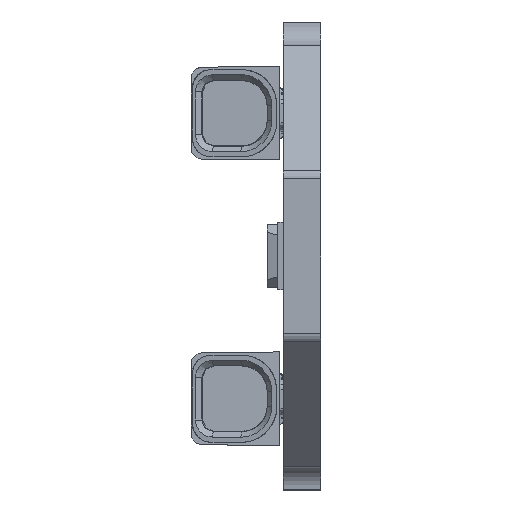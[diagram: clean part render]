
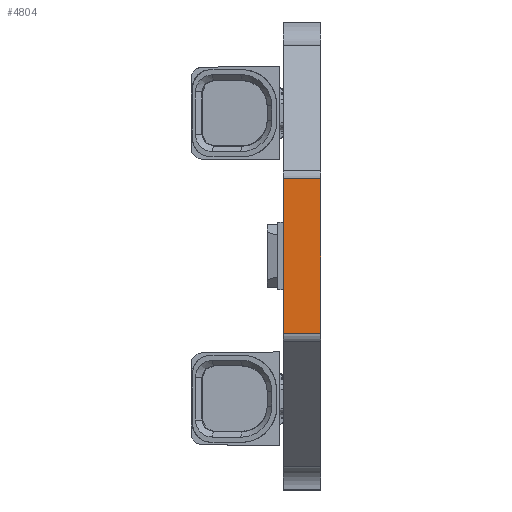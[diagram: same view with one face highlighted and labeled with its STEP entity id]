
A CAD part, left-side view. The second image highlights one B-rep face of the part: STEP entity #4804.
In plain terms, the highlighted planar face has unit normal (-1, 0, 0).
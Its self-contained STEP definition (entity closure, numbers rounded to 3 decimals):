
#164 = CARTESIAN_POINT ( 'NONE',  ( 0., 13.293, 1.6 ) ) ;
#456 = CARTESIAN_POINT ( 'NONE',  ( 0., 6.707, 1.6 ) ) ;
#1197 = FACE_OUTER_BOUND ( 'NONE', #22661, .T. ) ;
#4804 = ADVANCED_FACE ( 'NONE', ( #1197 ), #36152, .F. ) ;
#5877 = VERTEX_POINT ( 'NONE', #18775 ) ;
#8468 = ORIENTED_EDGE ( 'NONE', *, *, #57229, .T. ) ;
#9791 = ORIENTED_EDGE ( 'NONE', *, *, #46446, .F. ) ;
#11331 = LINE ( 'NONE', #52049, #38155 ) ;
#13422 = VECTOR ( 'NONE', #59875, 1000. ) ;
#13797 = DIRECTION ( 'NONE',  ( 0., 0., -1. ) ) ;
#15005 = LINE ( 'NONE', #29772, #13422 ) ;
#18775 = CARTESIAN_POINT ( 'NONE',  ( 0., 6.707, 0. ) ) ;
#20235 = VECTOR ( 'NONE', #13797, 1000. ) ;
#21994 = DIRECTION ( 'NONE',  ( 0., -1., 0. ) ) ;
#22661 = EDGE_LOOP ( 'NONE', ( #41844, #41095, #9791, #8468 ) ) ;
#24691 = VERTEX_POINT ( 'NONE', #456 ) ;
#26286 = CARTESIAN_POINT ( 'NONE',  ( 0., 13.293, 1.6 ) ) ;
#26413 = VECTOR ( 'NONE', #59965, 1000. ) ;
#26893 = CARTESIAN_POINT ( 'NONE',  ( 0., 13.293, 0. ) ) ;
#28000 = LINE ( 'NONE', #164, #26413 ) ;
#29772 = CARTESIAN_POINT ( 'NONE',  ( 0., 6.707, 1.6 ) ) ;
#31270 = VERTEX_POINT ( 'NONE', #47621 ) ;
#31349 = DIRECTION ( 'NONE',  ( 0., 0., -1. ) ) ;
#36152 = PLANE ( 'NONE',  #63028 ) ;
#38155 = VECTOR ( 'NONE', #21994, 1000. ) ;
#38913 = CARTESIAN_POINT ( 'NONE',  ( 0., 13.293, 1.6 ) ) ;
#41095 = ORIENTED_EDGE ( 'NONE', *, *, #56237, .F. ) ;
#41844 = ORIENTED_EDGE ( 'NONE', *, *, #52214, .T. ) ;
#46446 = EDGE_CURVE ( 'NONE', #31270, #24691, #28000, .T. ) ;
#46938 = LINE ( 'NONE', #38913, #20235 ) ;
#47621 = CARTESIAN_POINT ( 'NONE',  ( 0., 13.293, 1.6 ) ) ;
#51725 = VERTEX_POINT ( 'NONE', #26893 ) ;
#52049 = CARTESIAN_POINT ( 'NONE',  ( 0., 13.293, 0. ) ) ;
#52214 = EDGE_CURVE ( 'NONE', #51725, #5877, #11331, .T. ) ;
#56237 = EDGE_CURVE ( 'NONE', #24691, #5877, #15005, .T. ) ;
#57229 = EDGE_CURVE ( 'NONE', #31270, #51725, #46938, .T. ) ;
#59875 = DIRECTION ( 'NONE',  ( 0., 0., -1. ) ) ;
#59965 = DIRECTION ( 'NONE',  ( 0., -1., 0. ) ) ;
#61413 = DIRECTION ( 'NONE',  ( 1., 0., 0. ) ) ;
#63028 = AXIS2_PLACEMENT_3D ( 'NONE', #26286, #61413, #31349 ) ;
